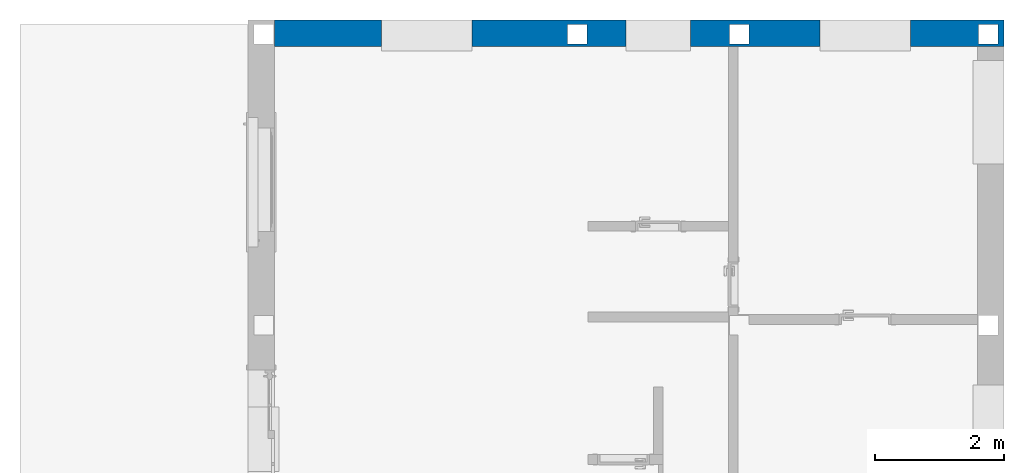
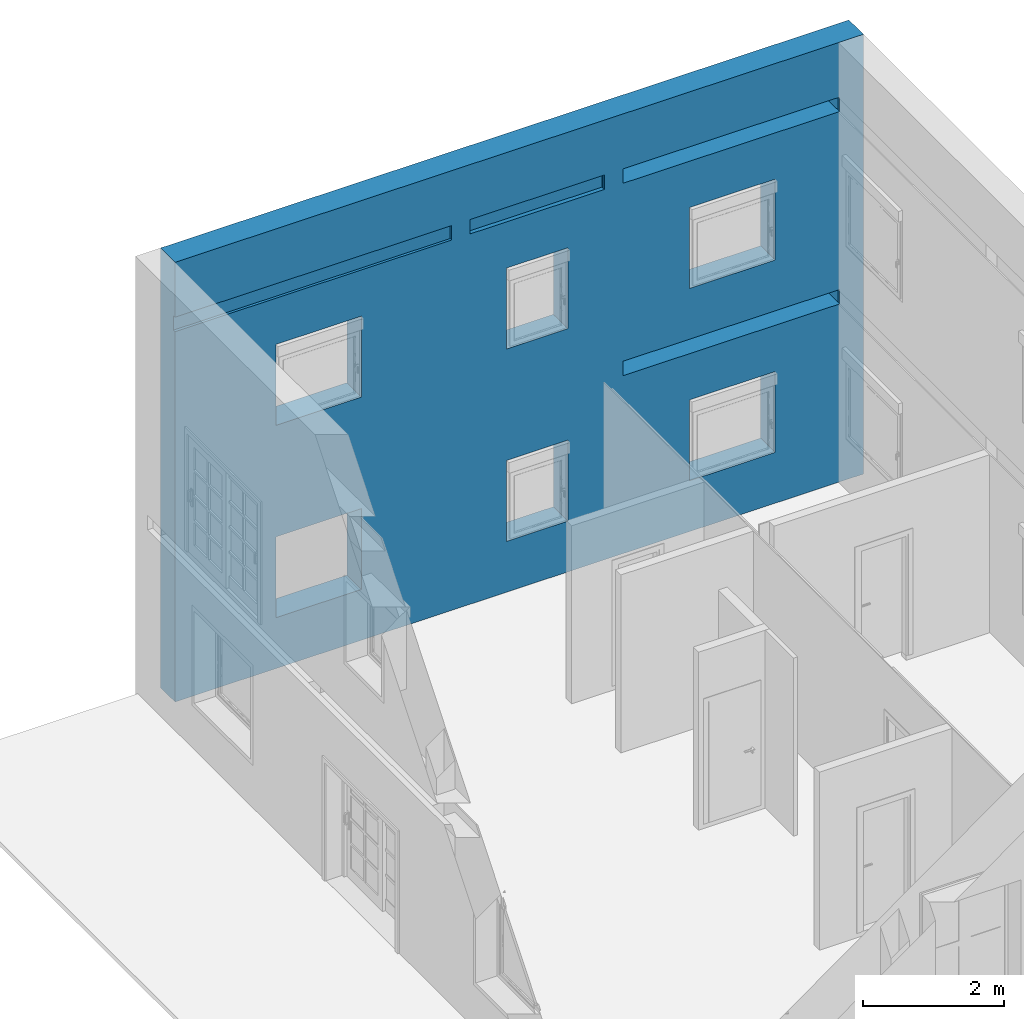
# One storey, part 11 of 11: 1 wall, 6 openings.
"""IFC2X3 building model written with IfcOpenShell, lengths in metres."""

from ifc_helpers import new_model, entity, si_unit, converted_unit, derived_unit, direction, frame, frame_2d, origin, place, context, subcontext, project, spatial, rectangle, extrude, faceted_brep, material, layer, layer_set, type_object, element, save


model = new_model("IFC2X3")

# Units and contexts
model_context = context("Model", 3, precision=1e-05, world=origin(), true_north=direction((6.12303176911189e-17, 1.0)))
context_of_model = context(None, 3, precision=1e-05, world=origin(), true_north=direction((6.12303176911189e-17, 1.0)))
body_context = subcontext(model_context, "Body", "Model", "MODEL_VIEW")
ifc_project = project(units=[si_unit("LENGTHUNIT", "METRE"), si_unit("AREAUNIT", "SQUARE_METRE"), si_unit("VOLUMEUNIT", "CUBIC_METRE"), converted_unit("PLANEANGLEUNIT", "DEGREE", entity("IfcRatioMeasure", 0.0174532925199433), si_unit("PLANEANGLEUNIT", "RADIAN"), dimensions=[0, 0, 0, 0, 0, 0, 0]), si_unit("MASSUNIT", "GRAM", prefix="KILO"), si_unit("TIMEUNIT", "SECOND"), si_unit("FREQUENCYUNIT", "HERTZ"), si_unit("THERMODYNAMICTEMPERATUREUNIT", "DEGREE_CELSIUS"), derived_unit("THERMALTRANSMITTANCEUNIT", [(si_unit("MASSUNIT", "GRAM", prefix="KILO"), 1), (si_unit("THERMODYNAMICTEMPERATUREUNIT", "KELVIN"), -1), (si_unit("TIMEUNIT", "SECOND"), -3)]), derived_unit("VOLUMETRICFLOWRATEUNIT", [(si_unit("LENGTHUNIT", "METRE"), 3), (si_unit("TIMEUNIT", "SECOND"), -1)]), si_unit("ELECTRICCURRENTUNIT", "AMPERE"), si_unit("ELECTRICVOLTAGEUNIT", "VOLT"), si_unit("POWERUNIT", "WATT"), si_unit("FORCEUNIT", "NEWTON", prefix="KILO"), si_unit("ILLUMINANCEUNIT", "LUX"), si_unit("LUMINOUSFLUXUNIT", "LUMEN"), si_unit("LUMINOUSINTENSITYUNIT", "CANDELA"), si_unit("PRESSUREUNIT", "PASCAL")], contexts=[model_context, context_of_model])

# Site, building, storey
site_placement = place(None, origin())
site = spatial("IfcSite", under=ifc_project, at=site_placement, Name="Default", CompositionType="ELEMENT")
building_placement = place(site_placement, origin())
building = spatial("IfcBuilding", under=site, at=building_placement, CompositionType="ELEMENT")
storey_placement = place(building_placement, frame((0.0, 0.0, 0.12)))
storey = spatial("IfcBuildingStorey", under=building, at=storey_placement, Name="01.ES.FORJADO PLANTA BAJA", CompositionType="ELEMENT", Elevation=0.12)

# Wall, openings
ifc_material_1 = material(Name="APL-Enfoscado de mortero de cemento de resistencia muy alta a la filtración (B3)")
ifc_layer_1 = layer(ifc_material_1, 0.015)
ifc_material_2 = material(Name="APL-Pared de obra de fabrica de ladrillo ceramico perforado, de e=11,5cm")
ifc_layer_2 = layer(ifc_material_2, 0.115)
ifc_material_3 = material(Name="APL-Camara de aire no ventilada")
ifc_layer_3 = layer(ifc_material_3, 0.075)
ifc_material_4 = material(Name="APL-Poliestireno expandido elastificado de e=0.037")
ifc_layer_4 = layer(ifc_material_4, 0.12)
ifc_material_5 = material(Name="APL-Tabique de obra de fabrica de ladrillo ceramico hueco doble, de e=7cm")
ifc_layer_5 = layer(ifc_material_5, 0.07)
ifc_material_6 = material(Name="APL-Guarnecido de yeso")
ifc_layer_6 = layer(ifc_material_6, 0.015)
ifc_layer_set = layer_set([ifc_layer_1, ifc_layer_2, ifc_layer_3, ifc_layer_4, ifc_layer_5, ifc_layer_6], Name="Muro básico:F3.2")
wall_type = type_object("IfcWallType", Name="Muro básico:F3.2", PredefinedType="STANDARD", material=ifc_layer_set)
wall_placement = place(storey_placement, frame((4.38499999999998, 13.1115177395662, 0.0)))
wall = element("IfcWall", 1, at=wall_placement, inside=storey, type_object=wall_type, Name="Muro básico:F3.2", ObjectType="Muro básico:F3.2", context=body_context, shape_type="Brep", body=[
    faceted_brep([(0.0, -0.204999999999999, 0.0), (4.69499999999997, -0.204999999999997, 0.0), (4.84499999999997, -0.204999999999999, 0.0), (7.01500000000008, -0.204999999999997, 0.0), (7.16500000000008, -0.204999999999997, 0.0), (10.86, -0.204999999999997, 0.0), (11.27, -0.204999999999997, 0.0), (11.27, -0.204999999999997, 7.61), (10.86, -0.204999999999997, 7.61), (0.0, -0.204999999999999, 7.61), (0.0, -0.204999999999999, 6.66), (4.53000000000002, -0.204999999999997, 6.66), (4.53000000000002, -0.204999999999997, 6.41), (0.0, -0.204999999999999, 6.41), (10.88, -0.204999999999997, 6.41), (10.86, -0.204999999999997, 6.41), (7.33000000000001, -0.204999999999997, 6.41), (7.33000000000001, -0.204999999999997, 6.66), (10.86, -0.204999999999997, 6.66), (10.88, -0.204999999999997, 6.66), (7.03000000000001, -0.204999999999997, 6.41), (4.83000000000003, -0.204999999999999, 6.41), (4.83000000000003, -0.204999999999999, 6.66), (7.03000000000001, -0.204999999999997, 6.66), (1.64999999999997, -0.204999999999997, 0.879999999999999), (1.64999999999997, -0.204999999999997, 2.28), (3.04999999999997, -0.204999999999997, 2.28), (3.04999999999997, -0.204999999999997, 0.879999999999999), (8.42500000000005, -0.204999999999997, 0.879999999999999), (8.42500000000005, -0.204999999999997, 2.28), (9.82500000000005, -0.204999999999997, 2.28), (9.82500000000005, -0.204999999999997, 0.879999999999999), (8.42500000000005, -0.204999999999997, 4.21), (8.42500000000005, -0.204999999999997, 5.61), (9.82500000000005, -0.204999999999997, 5.61), (9.82500000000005, -0.204999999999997, 4.21), (1.64999999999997, -0.204999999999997, 4.21), (1.64999999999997, -0.204999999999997, 5.61), (3.04999999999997, -0.204999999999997, 5.61), (3.04999999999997, -0.204999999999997, 4.21), (5.43000000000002, -0.204999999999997, 4.21), (5.43000000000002, -0.204999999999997, 5.61), (6.43000000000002, -0.204999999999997, 5.61), (6.43000000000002, -0.204999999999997, 4.21), (10.88, -0.204999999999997, 3.08), (10.86, -0.204999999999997, 3.08), (7.33000000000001, -0.204999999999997, 3.08), (7.33000000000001, -0.204999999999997, 3.33), (10.86, -0.204999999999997, 3.33), (10.88, -0.204999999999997, 3.33), (5.43000000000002, -0.204999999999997, 0.88), (5.43000000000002, -0.204999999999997, 2.28), (6.43000000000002, -0.204999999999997, 2.28), (6.43000000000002, -0.204999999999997, 0.88), (11.27, 0.205000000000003, 0.0), (0.0, 0.205000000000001, 0.0), (0.0, 0.205000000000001, 7.61), (11.27, 0.205000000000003, 7.61), (1.64999999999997, 0.205000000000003, 2.28), (1.64999999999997, 0.205000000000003, 0.879999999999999), (3.04999999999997, 0.205000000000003, 0.879999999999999), (3.04999999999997, 0.205000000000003, 2.28), (8.42500000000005, 0.205000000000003, 2.28), (8.42500000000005, 0.205000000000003, 0.879999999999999), (9.82500000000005, 0.205000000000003, 0.879999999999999), (9.82500000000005, 0.205000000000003, 2.28), (8.42500000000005, 0.205000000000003, 5.61), (8.42500000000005, 0.205000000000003, 4.21), (9.82500000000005, 0.205000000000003, 4.21), (9.82500000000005, 0.205000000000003, 5.61), (1.64999999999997, 0.205000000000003, 5.61), (1.64999999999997, 0.205000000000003, 4.21), (3.04999999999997, 0.205000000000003, 4.21), (3.04999999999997, 0.205000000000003, 5.61), (5.43000000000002, 0.205000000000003, 5.61), (5.43000000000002, 0.205000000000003, 4.21), (6.43000000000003, 0.205000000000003, 4.21), (6.43000000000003, 0.205000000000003, 5.61), (5.43000000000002, 0.205000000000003, 2.28), (5.43000000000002, 0.205000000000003, 0.88), (6.43000000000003, 0.205000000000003, 0.88), (6.43000000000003, 0.205000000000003, 2.28), (11.18, 0.138482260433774, 0.0), (10.88, 0.138482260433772, 0.0), (10.88, -0.161517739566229, 0.0), (11.18, -0.161517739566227, 0.0), (7.33000000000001, 0.138482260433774, 0.0), (7.03000000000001, 0.138482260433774, 0.0), (7.03000000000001, -0.161517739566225, 0.0), (7.33000000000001, -0.161517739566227, 0.0), (4.83000000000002, 0.138482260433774, 0.0), (4.53000000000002, 0.138482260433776, 0.0), (4.53000000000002, -0.161517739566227, 0.0), (4.83000000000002, -0.161517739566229, 0.0), (4.53000000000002, 0.138482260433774, 6.66), (4.83000000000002, 0.138482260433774, 6.66), (4.83000000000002, -0.136517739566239, 6.66), (7.03000000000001, -0.136517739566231, 6.66), (7.03000000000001, 0.138482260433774, 6.66), (7.33000000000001, 0.138482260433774, 6.66), (7.33000000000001, 0.113482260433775, 6.66), (10.88, 0.113482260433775, 6.66), (10.88, 0.138482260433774, 6.66), (11.18, 0.138482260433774, 6.66), (11.18, -0.161517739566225, 6.66), (10.88, -0.161517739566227, 6.66), (7.33000000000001, -0.161517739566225, 6.66), (7.03000000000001, -0.161517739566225, 6.66), (4.83000000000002, -0.161517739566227, 6.66), (4.53000000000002, -0.161517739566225, 6.66), (4.53000000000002, 0.138482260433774, 3.33), (4.83000000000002, 0.138482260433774, 3.33), (4.53000000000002, -0.161517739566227, 6.41), (4.53000000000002, -0.161517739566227, 3.33), (4.83000000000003, -0.161517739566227, 6.41), (4.83000000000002, -0.161517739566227, 3.33), (4.83000000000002, -0.136517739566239, 6.41), (7.03000000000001, 0.138482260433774, 3.33), (7.33000000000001, 0.138482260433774, 3.33), (7.03000000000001, -0.136517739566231, 6.41), (7.03000000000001, -0.161517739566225, 6.41), (7.03000000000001, -0.161517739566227, 3.33), (7.33000000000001, -0.161517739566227, 6.41), (7.33000000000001, -0.161517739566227, 3.33), (7.33000000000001, -0.161517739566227, 3.08), (7.33000000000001, -0.136517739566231, 3.08), (7.33000000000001, 0.113482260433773, 3.08), (7.33000000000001, 0.113482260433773, 3.33), (7.33000000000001, -0.136517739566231, 3.33), (7.33000000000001, -0.136517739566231, 6.41), (7.33000000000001, 0.113482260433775, 6.41), (10.88, 0.138482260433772, 3.33), (11.18, 0.138482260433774, 3.33), (10.88, 0.113482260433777, 6.41), (10.88, -0.13651773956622, 6.41), (10.88, -0.161517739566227, 6.41), (10.88, -0.161517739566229, 3.33), (10.88, -0.13651773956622, 3.33), (10.88, 0.113482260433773, 3.33), (10.88, 0.113482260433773, 3.08), (10.88, -0.13651773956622, 3.08), (10.88, -0.161517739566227, 3.08), (11.18, -0.161517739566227, 3.33), (0.0, -0.161517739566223, 6.41), (0.0, -0.161517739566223, 6.66)], [[[0, 1, 2, 3, 4, 5, 6, 7, 8, 9, 10, 11, 12, 13], [14, 15, 16, 17, 18, 19], [20, 21, 22, 23], [24, 25, 26, 27], [28, 29, 30, 31], [32, 33, 34, 35], [36, 37, 38, 39], [40, 41, 42, 43], [44, 45, 46, 47, 48, 49], [50, 51, 52, 53]], [[54, 55, 56, 57], [58, 59, 60, 61], [62, 63, 64, 65], [66, 67, 68, 69], [70, 71, 72, 73], [74, 75, 76, 77], [78, 79, 80, 81]], [[6, 5, 4, 3, 2, 1, 0, 55, 54], [82, 83, 84, 85], [86, 87, 88, 89], [90, 91, 92, 93]], [[9, 8, 7, 57, 56]], [[7, 6, 54, 57]], [[94, 95, 96, 97, 98, 99, 100, 101, 102, 103, 104, 105, 19, 18, 17, 106, 107, 23, 22, 108, 109]], [[95, 94, 110, 91, 90, 111]], [[94, 109, 112, 113, 92, 91, 110]], [[109, 108, 114, 115, 93, 92, 113, 112]], [[90, 93, 115, 114, 116, 96, 95, 111]], [[99, 98, 117, 87, 86, 118]], [[88, 87, 117, 98, 97, 119, 120, 121]], [[107, 106, 122, 123, 124, 89, 88, 121, 120]], [[86, 89, 124, 125, 126, 127, 128, 123, 122, 129, 130, 100, 99, 118]], [[103, 102, 131, 83, 82, 132]], [[84, 83, 131, 102, 101, 133, 134, 135, 136, 137, 138, 139, 140, 141]], [[105, 104, 142, 85, 84, 141, 136, 135]], [[104, 103, 132, 82, 85, 142]], [[122, 16, 15, 14, 135, 134, 133, 130, 129]], [[135, 14, 19, 105]], [[16, 122, 106, 17]], [[119, 116, 114, 21, 20, 120]], [[120, 20, 23, 107]], [[21, 114, 108, 22]], [[116, 119, 97, 96]], [[112, 143, 13, 12]], [[109, 11, 10, 144]], [[109, 112, 12, 11]], [[112, 109, 144, 143]], [[25, 24, 59, 58]], [[26, 25, 58, 61]], [[27, 26, 61, 60]], [[24, 27, 60, 59]], [[29, 28, 63, 62]], [[30, 29, 62, 65]], [[31, 30, 65, 64]], [[28, 31, 64, 63]], [[33, 32, 67, 66]], [[34, 33, 66, 69]], [[35, 34, 69, 68]], [[32, 35, 68, 67]], [[37, 36, 71, 70]], [[38, 37, 70, 73]], [[39, 38, 73, 72]], [[36, 39, 72, 71]], [[41, 40, 75, 74]], [[42, 41, 74, 77]], [[43, 42, 77, 76]], [[40, 43, 76, 75]], [[124, 46, 45, 44, 141, 140, 139, 126, 125]], [[136, 49, 48, 47, 123, 128, 127, 138, 137]], [[141, 44, 49, 136]], [[46, 124, 123, 47]], [[101, 100, 130, 133]], [[138, 127, 126, 139]], [[51, 50, 79, 78]], [[52, 51, 78, 81]], [[53, 52, 81, 80]], [[50, 53, 80, 79]], [[9, 56, 55, 0, 13, 143, 144, 10]]]),
])
opening_1_placement = place(wall_placement, frame((1.64999999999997, -0.205000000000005, 0.879999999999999)))
element("IfcOpeningElement", 2, at=opening_1_placement, cuts=wall, Name="Ventana 1 hoja:VE1_140 x 140 cm:1", ObjectType="Opening", context=body_context, shape_type="SweptSolid", body=[
    extrude(rectangle(XDim=1.4, YDim=1.4, at=frame_2d((0.7, 0.7), x_axis=(1.0, 0.0))), frame((0.0, 0.0, 0.0), z_axis=(0.0, 1.0, 0.0), x_axis=(0.0, 0.0, 1.0)), (0.0, 0.0, 1.0), 0.41),
])
opening_2_placement = place(wall_placement, frame((8.42500000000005, -0.205000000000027, 0.879999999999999)))
element("IfcOpeningElement", 3, at=opening_2_placement, cuts=wall, Name="Ventana 1 hoja:VE1_140 x 140 cm:1", ObjectType="Opening", context=body_context, shape_type="SweptSolid", body=[
    extrude(rectangle(XDim=1.4, YDim=1.4, at=frame_2d((0.7, 0.7), x_axis=(1.0, 0.0))), frame((0.0, 0.0, 0.0), z_axis=(0.0, 1.0, 0.0), x_axis=(0.0, 0.0, 1.0)), (0.0, 0.0, 1.0), 0.41),
])
opening_3_placement = place(wall_placement, frame((1.64999999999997, -0.205000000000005, 4.21)))
element("IfcOpeningElement", 4, at=opening_3_placement, cuts=wall, Name="Ventana 1 hoja:VE1_140 x 140 cm:1", ObjectType="Opening", context=body_context, shape_type="SweptSolid", body=[
    extrude(rectangle(XDim=1.4, YDim=1.4, at=frame_2d((0.700000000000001, 0.7), x_axis=(1.0, 0.0))), frame((0.0, 0.0, 0.0), z_axis=(0.0, 1.0, 0.0), x_axis=(0.0, 0.0, 1.0)), (0.0, 0.0, 1.0), 0.41),
])
opening_4_placement = place(wall_placement, frame((8.42500000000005, -0.205000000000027, 4.21)))
element("IfcOpeningElement", 5, at=opening_4_placement, cuts=wall, Name="Ventana 1 hoja:VE1_140 x 140 cm:1", ObjectType="Opening", context=body_context, shape_type="SweptSolid", body=[
    extrude(rectangle(XDim=1.4, YDim=1.4, at=frame_2d((0.700000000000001, 0.7), x_axis=(1.0, 0.0))), frame((0.0, 0.0, 0.0), z_axis=(0.0, 1.0, 0.0), x_axis=(0.0, 0.0, 1.0)), (0.0, 0.0, 1.0), 0.41),
])
opening_5_placement = place(wall_placement, frame((5.43000000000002, -0.205000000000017, 4.21)))
element("IfcOpeningElement", 6, at=opening_5_placement, cuts=wall, Name="Ventana 1 hoja:VE1_100 x 140 cm:1", ObjectType="Opening", context=body_context, shape_type="SweptSolid", body=[
    extrude(rectangle(XDim=1.4, YDim=1.0, at=frame_2d((0.7, 0.5), x_axis=(1.0, 0.0))), frame((0.0, 0.0, 0.0), z_axis=(0.0, 1.0, 0.0), x_axis=(0.0, 0.0, 1.0)), (0.0, 0.0, 1.0), 0.41),
])
opening_6_placement = place(wall_placement, frame((5.43000000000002, -0.205000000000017, 0.879999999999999)))
element("IfcOpeningElement", 7, at=opening_6_placement, cuts=wall, Name="Ventana 1 hoja:VE1_100 x 140 cm:1", ObjectType="Opening", context=body_context, shape_type="SweptSolid", body=[
    extrude(rectangle(XDim=1.4, YDim=1.0, at=frame_2d((0.7, 0.5), x_axis=(1.0, 0.0))), frame((0.0, 0.0, 0.0), z_axis=(0.0, 1.0, 0.0), x_axis=(0.0, 0.0, 1.0)), (0.0, 0.0, 1.0), 0.41),
])

save(model, "model.ifc")
